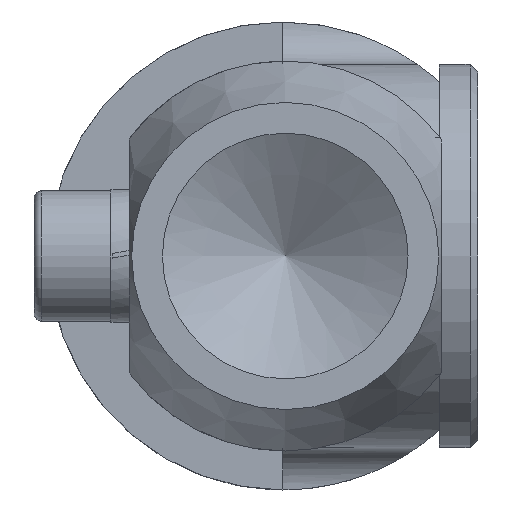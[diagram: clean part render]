
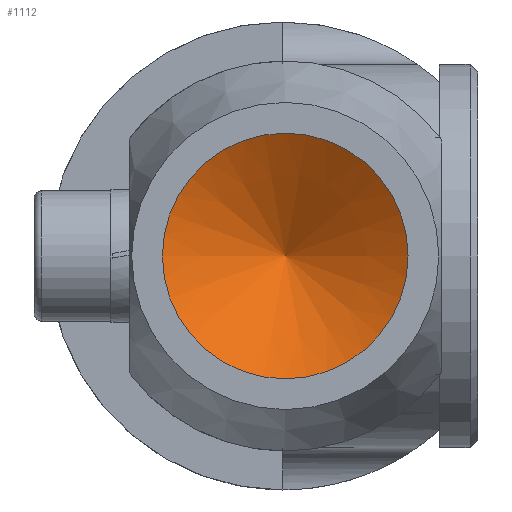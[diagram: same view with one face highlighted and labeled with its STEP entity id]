
A CAD part, front view. The second image highlights one B-rep face of the part: STEP entity #1112.
In plain terms, the highlighted conical face has half-angle 59 degrees and reference radius 4 mm.
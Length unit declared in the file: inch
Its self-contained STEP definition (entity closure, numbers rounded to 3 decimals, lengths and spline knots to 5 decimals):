
#178=FACE_OUTER_BOUND('',#251,.T.);
#251=EDGE_LOOP('',(#849,#850,#851));
#329=LINE('',#1959,#391);
#391=VECTOR('',#1547,0.15748);
#460=CIRCLE('',#1339,0.31496);
#533=VERTEX_POINT('',#1956);
#534=VERTEX_POINT('',#1958);
#652=EDGE_CURVE('',#533,#533,#460,.T.);
#653=EDGE_CURVE('',#533,#534,#329,.T.);
#849=ORIENTED_EDGE('',*,*,#652,.T.);
#850=ORIENTED_EDGE('',*,*,#653,.T.);
#851=ORIENTED_EDGE('',*,*,#653,.F.);
#1088=CONICAL_SURFACE('',#1338,0.15748,1.03);
#1112=ADVANCED_FACE('',(#178),#1088,.F.);
#1338=AXIS2_PLACEMENT_3D('',#1955,#1543,#1544);
#1339=AXIS2_PLACEMENT_3D('',#1957,#1545,#1546);
#1543=DIRECTION('center_axis',(0.,-1.,0.));
#1544=DIRECTION('ref_axis',(1.,0.,0.));
#1545=DIRECTION('center_axis',(0.,-1.,0.));
#1546=DIRECTION('ref_axis',(1.,0.,0.));
#1547=DIRECTION('',(0.857,0.515,0.));
#1955=CARTESIAN_POINT('Origin',(0.,1.43321,0.));
#1956=CARTESIAN_POINT('',(-0.31496,1.33858,0.));
#1957=CARTESIAN_POINT('Origin',(0.,1.33858,0.));
#1958=CARTESIAN_POINT('',(0.,1.52783,0.));
#1959=CARTESIAN_POINT('',(-0.15748,1.43321,0.));
